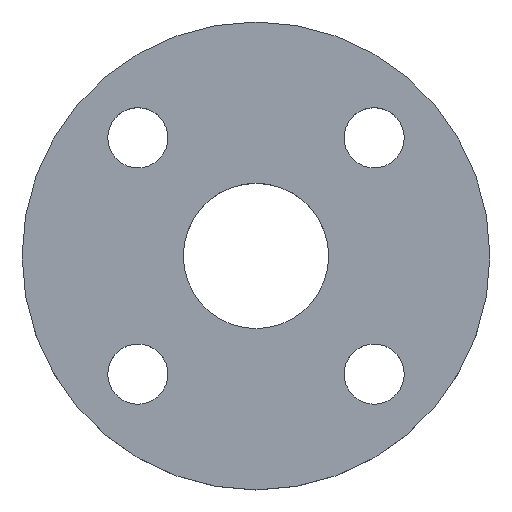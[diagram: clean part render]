
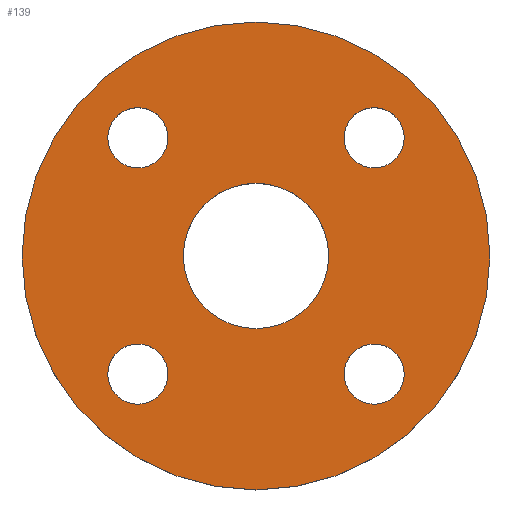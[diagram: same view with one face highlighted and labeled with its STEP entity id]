
A CAD part, top view. The second image highlights one B-rep face of the part: STEP entity #139.
In plain terms, the highlighted planar face has unit normal (0, 0, 1).
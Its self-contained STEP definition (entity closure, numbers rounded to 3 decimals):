
#2 = FACE_BOUND ( 'NONE', #574, .T. ) ;
#8 = EDGE_CURVE ( 'NONE', #341, #69, #457, .T. ) ;
#21 = ORIENTED_EDGE ( 'NONE', *, *, #502, .T. ) ;
#27 = ORIENTED_EDGE ( 'NONE', *, *, #244, .T. ) ;
#29 = VERTEX_POINT ( 'NONE', #408 ) ;
#30 = VERTEX_POINT ( 'NONE', #589 ) ;
#31 = CIRCLE ( 'NONE', #437, 70. ) ;
#32 = CIRCLE ( 'NONE', #33, 9. ) ;
#33 = AXIS2_PLACEMENT_3D ( 'NONE', #557, #95, #314 ) ;
#34 = CARTESIAN_POINT ( 'NONE',  ( -44.355, 35.355, 0. ) ) ;
#51 = DIRECTION ( 'NONE',  ( 0., 0., 1. ) ) ;
#63 = DIRECTION ( 'NONE',  ( 1., 0., 0. ) ) ;
#68 = AXIS2_PLACEMENT_3D ( 'NONE', #565, #105, #322 ) ;
#69 = VERTEX_POINT ( 'NONE', #34 ) ;
#70 = DIRECTION ( 'NONE',  ( 0., 0., -1. ) ) ;
#75 = ORIENTED_EDGE ( 'NONE', *, *, #544, .F. ) ;
#84 = EDGE_CURVE ( 'NONE', #390, #29, #150, .T. ) ;
#90 = DIRECTION ( 'NONE',  ( -1., 0., 0. ) ) ;
#95 = DIRECTION ( 'NONE',  ( 0., 0., -1. ) ) ;
#98 = VERTEX_POINT ( 'NONE', #143 ) ;
#105 = DIRECTION ( 'NONE',  ( 0., 0., 1. ) ) ;
#121 = DIRECTION ( 'NONE',  ( 0., 0., -1. ) ) ;
#122 = CIRCLE ( 'NONE', #130, 9. ) ;
#124 = EDGE_CURVE ( 'NONE', #126, #129, #32, .T. ) ;
#126 = VERTEX_POINT ( 'NONE', #513 ) ;
#129 = VERTEX_POINT ( 'NONE', #641 ) ;
#130 = AXIS2_PLACEMENT_3D ( 'NONE', #636, #200, #418 ) ;
#139 = ADVANCED_FACE ( 'NONE', ( #475, #2, #210, #428, #606, #157 ), #379, .T. ) ;
#143 = CARTESIAN_POINT ( 'NONE',  ( -44.355, -35.355, 0. ) ) ;
#150 = CIRCLE ( 'NONE', #534, 9. ) ;
#155 = CARTESIAN_POINT ( 'NONE',  ( -35.355, -35.355, 0. ) ) ;
#157 = FACE_OUTER_BOUND ( 'NONE', #238, .T. ) ;
#178 = CIRCLE ( 'NONE', #195, 70. ) ;
#185 = VERTEX_POINT ( 'NONE', #388 ) ;
#187 = EDGE_CURVE ( 'NONE', #98, #407, #122, .T. ) ;
#190 = AXIS2_PLACEMENT_3D ( 'NONE', #259, #473, #642 ) ;
#195 = AXIS2_PLACEMENT_3D ( 'NONE', #518, #51, #261 ) ;
#200 = DIRECTION ( 'NONE',  ( 0., 0., -1. ) ) ;
#203 = EDGE_LOOP ( 'NONE', ( #75, #228 ) ) ;
#210 = FACE_BOUND ( 'NONE', #217, .T. ) ;
#217 = EDGE_LOOP ( 'NONE', ( #402, #21 ) ) ;
#225 = EDGE_LOOP ( 'NONE', ( #610, #622 ) ) ;
#228 = ORIENTED_EDGE ( 'NONE', *, *, #329, .F. ) ;
#238 = EDGE_LOOP ( 'NONE', ( #27, #485 ) ) ;
#239 = CARTESIAN_POINT ( 'NONE',  ( -35.355, 35.355, 0. ) ) ;
#244 = EDGE_CURVE ( 'NONE', #30, #384, #178, .T. ) ;
#248 = CARTESIAN_POINT ( 'NONE',  ( 35.355, 35.355, 0. ) ) ;
#253 = CARTESIAN_POINT ( 'NONE',  ( 0., 0., 0. ) ) ;
#259 = CARTESIAN_POINT ( 'NONE',  ( 0., 0., 0. ) ) ;
#261 = DIRECTION ( 'NONE',  ( 1., 0., 0. ) ) ;
#270 = ORIENTED_EDGE ( 'NONE', *, *, #361, .T. ) ;
#283 = CIRCLE ( 'NONE', #290, 21.75 ) ;
#286 = DIRECTION ( 'NONE',  ( -1., 0., 0. ) ) ;
#289 = ORIENTED_EDGE ( 'NONE', *, *, #187, .T. ) ;
#290 = AXIS2_PLACEMENT_3D ( 'NONE', #332, #529, #63 ) ;
#314 = DIRECTION ( 'NONE',  ( -1., 0., 0. ) ) ;
#322 = DIRECTION ( 'NONE',  ( 1., 0., 0. ) ) ;
#329 = EDGE_CURVE ( 'NONE', #185, #354, #283, .T. ) ;
#332 = CARTESIAN_POINT ( 'NONE',  ( 0., 0., 0. ) ) ;
#337 = CIRCLE ( 'NONE', #339, 9. ) ;
#338 = DIRECTION ( 'NONE',  ( -1., 0., 0. ) ) ;
#339 = AXIS2_PLACEMENT_3D ( 'NONE', #578, #121, #338 ) ;
#340 = CIRCLE ( 'NONE', #349, 9. ) ;
#341 = VERTEX_POINT ( 'NONE', #486 ) ;
#349 = AXIS2_PLACEMENT_3D ( 'NONE', #535, #70, #286 ) ;
#354 = VERTEX_POINT ( 'NONE', #442 ) ;
#357 = EDGE_CURVE ( 'NONE', #129, #126, #337, .T. ) ;
#361 = EDGE_CURVE ( 'NONE', #29, #390, #340, .T. ) ;
#367 = CARTESIAN_POINT ( 'NONE',  ( -35.355, 35.355, 0. ) ) ;
#376 = DIRECTION ( 'NONE',  ( 0., 0., -1. ) ) ;
#377 = AXIS2_PLACEMENT_3D ( 'NONE', #155, #376, #563 ) ;
#379 = PLANE ( 'NONE',  #68 ) ;
#384 = VERTEX_POINT ( 'NONE', #445 ) ;
#388 = CARTESIAN_POINT ( 'NONE',  ( -21.75, 0., 0. ) ) ;
#390 = VERTEX_POINT ( 'NONE', #620 ) ;
#402 = ORIENTED_EDGE ( 'NONE', *, *, #8, .T. ) ;
#407 = VERTEX_POINT ( 'NONE', #580 ) ;
#408 = CARTESIAN_POINT ( 'NONE',  ( 26.355, 35.355, 0. ) ) ;
#418 = DIRECTION ( 'NONE',  ( -1., 0., 0. ) ) ;
#425 = CIRCLE ( 'NONE', #426, 9. ) ;
#426 = AXIS2_PLACEMENT_3D ( 'NONE', #367, #554, #90 ) ;
#428 = FACE_BOUND ( 'NONE', #446, .T. ) ;
#437 = AXIS2_PLACEMENT_3D ( 'NONE', #253, #469, #638 ) ;
#442 = CARTESIAN_POINT ( 'NONE',  ( 21.75, 0., 0. ) ) ;
#445 = CARTESIAN_POINT ( 'NONE',  ( -70., 0., 0. ) ) ;
#446 = EDGE_LOOP ( 'NONE', ( #528, #270 ) ) ;
#455 = DIRECTION ( 'NONE',  ( 0., 0., -1. ) ) ;
#456 = AXIS2_PLACEMENT_3D ( 'NONE', #239, #455, #628 ) ;
#457 = CIRCLE ( 'NONE', #456, 9. ) ;
#464 = DIRECTION ( 'NONE',  ( 0., 0., -1. ) ) ;
#469 = DIRECTION ( 'NONE',  ( 0., 0., 1. ) ) ;
#473 = DIRECTION ( 'NONE',  ( 0., 0., 1. ) ) ;
#475 = FACE_BOUND ( 'NONE', #225, .T. ) ;
#485 = ORIENTED_EDGE ( 'NONE', *, *, #527, .T. ) ;
#486 = CARTESIAN_POINT ( 'NONE',  ( -26.355, 35.355, 0. ) ) ;
#502 = EDGE_CURVE ( 'NONE', #69, #341, #425, .T. ) ;
#513 = CARTESIAN_POINT ( 'NONE',  ( 26.355, -35.355, 0. ) ) ;
#518 = CARTESIAN_POINT ( 'NONE',  ( 0., 0., 0. ) ) ;
#527 = EDGE_CURVE ( 'NONE', #384, #30, #31, .T. ) ;
#528 = ORIENTED_EDGE ( 'NONE', *, *, #84, .T. ) ;
#529 = DIRECTION ( 'NONE',  ( 0., 0., 1. ) ) ;
#534 = AXIS2_PLACEMENT_3D ( 'NONE', #248, #464, #633 ) ;
#535 = CARTESIAN_POINT ( 'NONE',  ( 35.355, 35.355, 0. ) ) ;
#544 = EDGE_CURVE ( 'NONE', #354, #185, #611, .T. ) ;
#554 = DIRECTION ( 'NONE',  ( 0., 0., -1. ) ) ;
#557 = CARTESIAN_POINT ( 'NONE',  ( 35.355, -35.355, 0. ) ) ;
#563 = DIRECTION ( 'NONE',  ( -1., 0., 0. ) ) ;
#565 = CARTESIAN_POINT ( 'NONE',  ( 0., 0., 0. ) ) ;
#568 = EDGE_CURVE ( 'NONE', #407, #98, #629, .T. ) ;
#574 = EDGE_LOOP ( 'NONE', ( #617, #289 ) ) ;
#578 = CARTESIAN_POINT ( 'NONE',  ( 35.355, -35.355, 0. ) ) ;
#580 = CARTESIAN_POINT ( 'NONE',  ( -26.355, -35.355, 0. ) ) ;
#589 = CARTESIAN_POINT ( 'NONE',  ( 70., 0., 0. ) ) ;
#606 = FACE_BOUND ( 'NONE', #203, .T. ) ;
#610 = ORIENTED_EDGE ( 'NONE', *, *, #357, .T. ) ;
#611 = CIRCLE ( 'NONE', #190, 21.75 ) ;
#617 = ORIENTED_EDGE ( 'NONE', *, *, #568, .T. ) ;
#620 = CARTESIAN_POINT ( 'NONE',  ( 44.355, 35.355, 0. ) ) ;
#622 = ORIENTED_EDGE ( 'NONE', *, *, #124, .T. ) ;
#628 = DIRECTION ( 'NONE',  ( -1., 0., 0. ) ) ;
#629 = CIRCLE ( 'NONE', #377, 9. ) ;
#633 = DIRECTION ( 'NONE',  ( -1., 0., 0. ) ) ;
#636 = CARTESIAN_POINT ( 'NONE',  ( -35.355, -35.355, 0. ) ) ;
#638 = DIRECTION ( 'NONE',  ( 1., 0., 0. ) ) ;
#641 = CARTESIAN_POINT ( 'NONE',  ( 44.355, -35.355, 0. ) ) ;
#642 = DIRECTION ( 'NONE',  ( 1., 0., 0. ) ) ;
